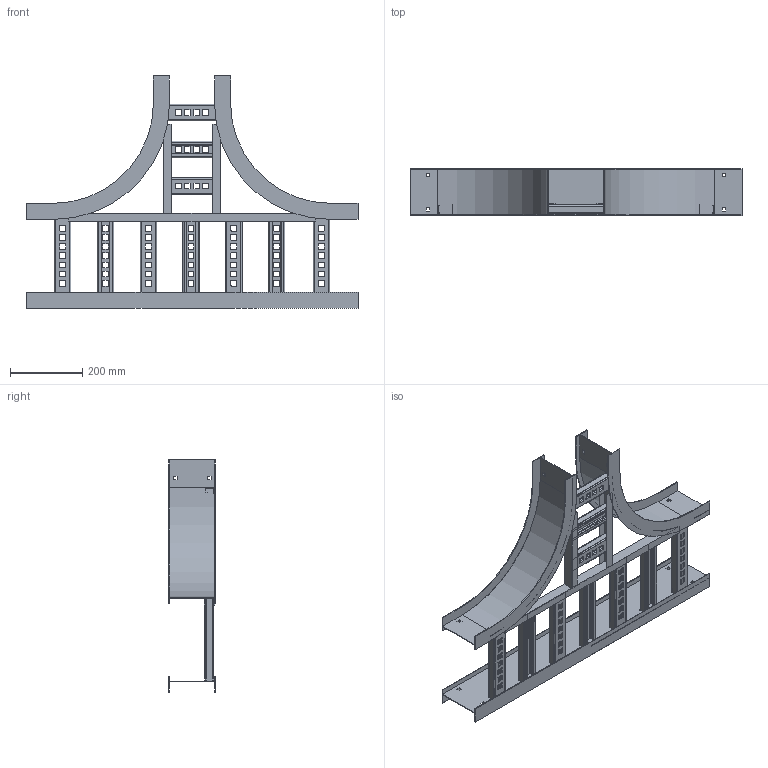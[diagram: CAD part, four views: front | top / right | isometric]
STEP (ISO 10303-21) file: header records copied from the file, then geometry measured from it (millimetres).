
FILE_DESCRIPTION((''),'2;1');
FILE_NAME('AHF50906VRT12_ASM','2010-02-12T',('erouzier'),(''),'PRO/ENGINEER BY PARAMETRIC TECHNOLOGY CORPORATION, 2008510','PRO/ENGINEER BY PARAMETRIC TECHNOLOGY CORPORATION, 2008510','');
FILE_SCHEMA(('CONFIG_CONTROL_DESIGN'));
Length unit declared in the file: inch
Products named in the file (16): CDS001811-5-90-12-I; CDS013846-5-36; CDS000495_GEN_AF9; CDS002159L9-P_AF7; CDS002159L9-P_AF8; CDS002159L9-P_AF9; CDS002159L9-P_AF10; CDS002159L9-P_AF11; CDS002159L9-P_AF12; CDS002159L9-P_AF13; CDS000495_GEN_AF10; CDS000495_GEN_AF11; CDS002159L6-P_AF3; CDS002159L6-P_AF4; CDS002159L6-P_AF5; AHF50906VRT12_ASM
Assembly tree (16 placements, depth 2):
  AHF50906VRT12_ASM
    CDS001811-5-90-12-I  x2
    CDS013846-5-36
    CDS000495_GEN_AF9
    CDS002159L9-P_AF7
    CDS002159L9-P_AF8
    CDS002159L9-P_AF9
    CDS002159L9-P_AF10
    CDS002159L9-P_AF11
    CDS002159L9-P_AF12
    CDS002159L9-P_AF13
    CDS000495_GEN_AF10
    CDS000495_GEN_AF11
    CDS002159L6-P_AF3
    CDS002159L6-P_AF4
    CDS002159L6-P_AF5
Bounding box: 918.46 x 129.54 x 642.24 mm (x, y, z)
Volume: 1431449.8 mm3; surface area: 1566051.7 mm2
Topology: 16 solids, 16 shells, 932 faces, 2700 edges, 1800 vertices
Faces by surface type: plane 566, cylinder 366
Entity records: 30074 total; most frequent: CARTESIAN_POINT 5222, ORIENTED_EDGE 5160, DIRECTION 5144, EDGE_CURVE 2580, VECTOR 1860, LINE 1860, VERTEX_POINT 1720, AXIS2_PLACEMENT_3D 1642
